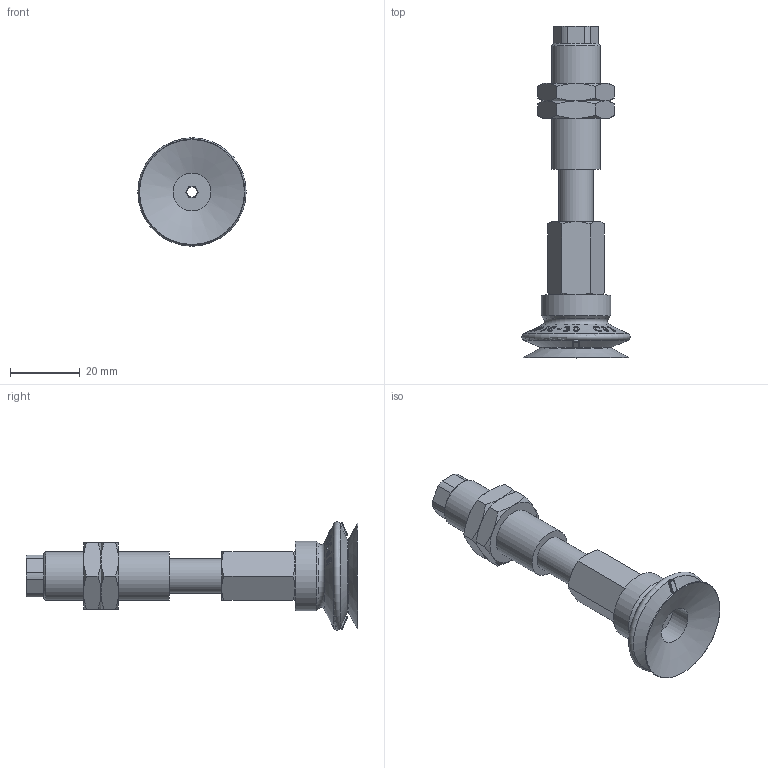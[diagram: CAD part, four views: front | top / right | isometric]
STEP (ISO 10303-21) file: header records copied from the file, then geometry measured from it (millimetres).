
FILE_DESCRIPTION(('STEP AP214'),'1');
FILE_NAME('.stp','2026-01-21T05:11:53',(' '),(' '),'Spatial InterOp 3D',' ',' ');
FILE_SCHEMA(('AUTOMOTIVE_DESIGN { 1 0 10303 214 1 1 1 1 }'));
Length unit declared in the file: millimetre
Products named in the file (7): BNABPJTS-30-15-※; ADAPTER; BPJG-30-※; Adapter-30-NAPJ; NUT-NAPJ-30-15-s; NAPJTS-30-15-FBODY; NAPJTS-30-15-MBODY
Assembly tree (7 placements, depth 2):
  BNABPJTS-30-15-※
    ADAPTER
    BPJG-30-※
    Adapter-30-NAPJ
    NUT-NAPJ-30-15-s  x2
    NAPJTS-30-15-FBODY
    NAPJTS-30-15-MBODY
Bounding box: 30.99 x 95 x 30.99 mm (x, y, z)
Volume: 17993.5 mm3; surface area: 12900.6 mm2
Topology: 7 solids, 7 shells, 770 faces, 2142 edges, 1407 vertices
Faces by surface type: plane 667, cone 67, cylinder 29, torus 7
Full cylindrical faces by diameter (mm): 3 x3, 4.134 x1, 4.917 x1, 5.8 x1, 6 x1, 10 x2, 10.8 x1, 11 x1, 13.188 x2, 14 x1, 20 x1
Entity records: 30849 total; most frequent: CARTESIAN_POINT 7682, ORIENTED_EDGE 4118, DIRECTION 2587, EDGE_CURVE 2059, VERTEX_POINT 1374, B_SPLINE_CURVE_WITH_KNOTS 1084, LINE 873, VECTOR 873
